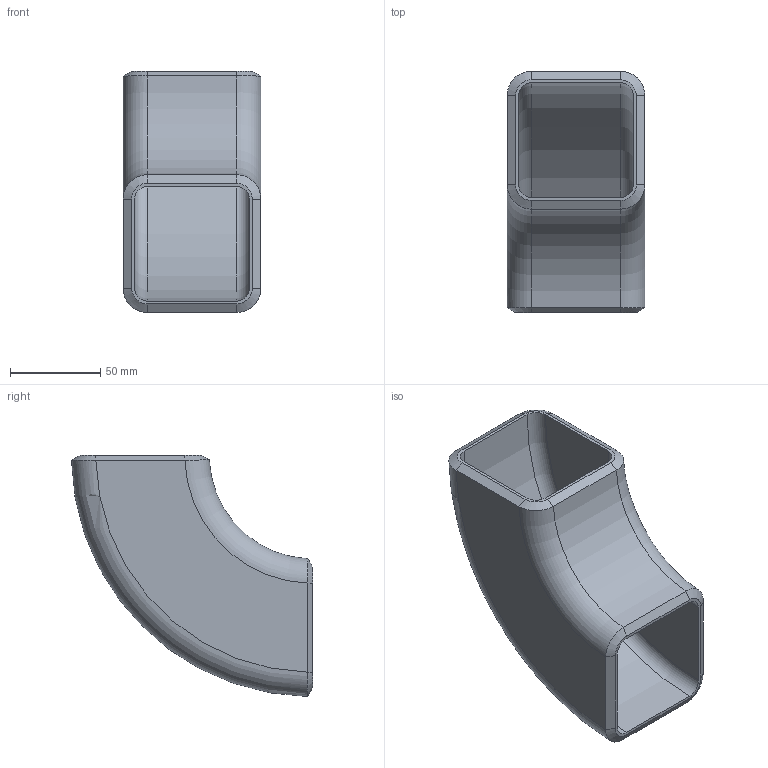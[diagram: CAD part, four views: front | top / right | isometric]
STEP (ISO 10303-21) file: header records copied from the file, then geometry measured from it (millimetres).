
FILE_DESCRIPTION((''),'2;1');
FILE_NAME('C:\Documents and Settings\bamfomg\Desktop\Owens corners\STP FILES\3x3x0.25 - Steel.stp','2011-03-21T13:15:17',('bamfomg'),(''),'Autodesk Inventor 2011','Autodesk Inventor 2011','');
FILE_SCHEMA(('AUTOMOTIVE_DESIGN { 1 0 10303 214 1 1 1 1 }'));
Length unit declared in the file: inch
Products named in the file (1): Square Tube Corners
Bounding box: 76.2 x 133.32 x 133.32 mm (x, y, z)
Volume: 245184.7 mm3; surface area: 80503.7 mm2
Topology: 1 solids, 1 shells, 34 faces, 80 edges, 48 vertices
Faces by surface type: bspline 16, torus 8, plane 6, cylinder 4
Entity records: 1538 total; most frequent: CARTESIAN_POINT 853, ORIENTED_EDGE 160, DIRECTION 94, EDGE_CURVE 80, VERTEX_POINT 48, B_SPLINE_CURVE_WITH_KNOTS 46, AXIS2_PLACEMENT_3D 43, EDGE_LOOP 36
